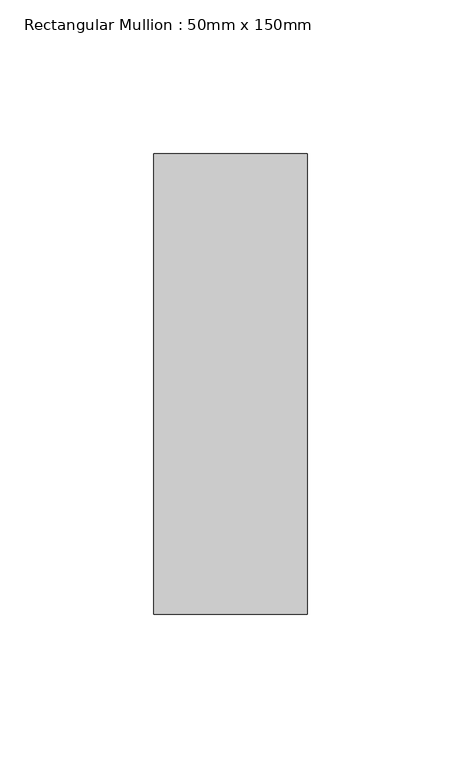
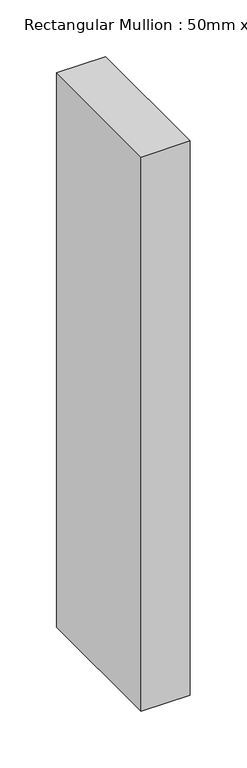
"""IFC4 building model written with IfcOpenShell, lengths in millimetres: member geometry, Rectangular Mullion : 50mm x 150mm."""

from ifc_helpers import new_model, si_unit, frame, origin, place, context, project, spatial, polyline, outline, extrude, source, transform, mapped, element, save


def rectangular_mullion_50mm_x_150mm_d223150d(model_context):
    return source(origin(), model_context, "Body", "SweptSolid", [
        extrude(outline(polyline([(0.0, 75.0), (0.0, -75.0), (-50.0, -75.0), (-50.0, 75.0), (0.0, 75.0)])), frame((0.0, 0.0, -597.9584148), z_axis=(0.0, 0.0, 1.0), x_axis=(1.0, 0.0, 0.0)), (0.0, 0.0, 1.0), 597.9584148),
    ])


if __name__ == "__main__":
    model = new_model("IFC4")
    model_context = context("Model", 3, world=origin())
    ifc_project = project(units=[si_unit("LENGTHUNIT", "METRE", prefix="MILLI")], contexts=[model_context])
    site = spatial("IfcSite", under=ifc_project)
    building = spatial("IfcBuilding", under=site)
    placement = place(None, origin())
    rectangular_mullion_50mm_x_150mm_shape = rectangular_mullion_50mm_x_150mm_d223150d(model_context)
    element("IfcMember", 1, ObjectType="Rectangular Mullion : 50mm x 150mm", at=placement, inside=building, context=model_context, shape_type="MappedRepresentation", body=[
        mapped(rectangular_mullion_50mm_x_150mm_shape, transform((0.0, 0.0, 0.0), x_axis=(1.0, 0.0, 0.0), y_axis=(0.0, 1.0, 0.0), z_axis=(0.0, 0.0, 1.0))),
    ])
    save(model, "model.ifc")
